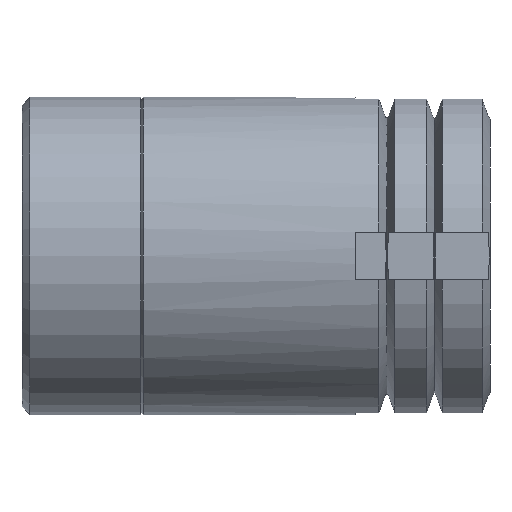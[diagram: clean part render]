
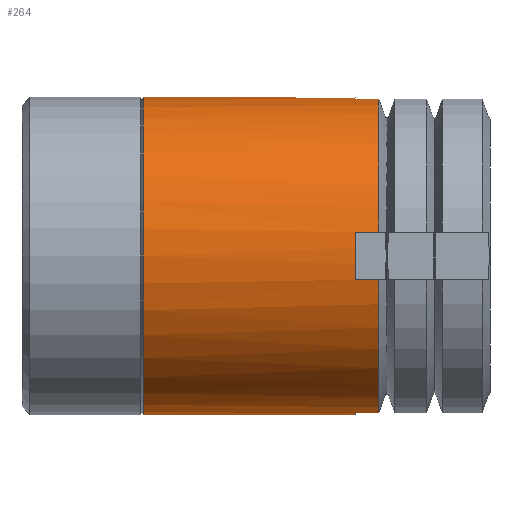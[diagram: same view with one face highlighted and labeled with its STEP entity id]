
A CAD part, front view. The second image highlights one B-rep face of the part: STEP entity #264.
In plain terms, the highlighted cylindrical face has radius 20 mm (diameter 40 mm), a full revolution.
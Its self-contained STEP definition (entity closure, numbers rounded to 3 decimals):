
#264 = ADVANCED_FACE( '', ( #402, #403 ), #404, .T. );
#402 = FACE_OUTER_BOUND( '', #640, .T. );
#403 = FACE_OUTER_BOUND( '', #641, .T. );
#404 = CYLINDRICAL_SURFACE( '', #642, 20. );
#640 = EDGE_LOOP( '', ( #922 ) );
#641 = EDGE_LOOP( '', ( #923, #924, #925, #926, #927, #928, #929, #930, #931, #932, #933, #934, #935, #936, #937, #938 ) );
#642 = AXIS2_PLACEMENT_3D( '', #939, #940, #941 );
#922 = ORIENTED_EDGE( '', *, *, #1500, .F. );
#923 = ORIENTED_EDGE( '', *, *, #1501, .F. );
#924 = ORIENTED_EDGE( '', *, *, #1502, .T. );
#925 = ORIENTED_EDGE( '', *, *, #1503, .T. );
#926 = ORIENTED_EDGE( '', *, *, #1504, .F. );
#927 = ORIENTED_EDGE( '', *, *, #1505, .F. );
#928 = ORIENTED_EDGE( '', *, *, #1506, .T. );
#929 = ORIENTED_EDGE( '', *, *, #1507, .T. );
#930 = ORIENTED_EDGE( '', *, *, #1508, .F. );
#931 = ORIENTED_EDGE( '', *, *, #1509, .F. );
#932 = ORIENTED_EDGE( '', *, *, #1486, .T. );
#933 = ORIENTED_EDGE( '', *, *, #1510, .T. );
#934 = ORIENTED_EDGE( '', *, *, #1511, .F. );
#935 = ORIENTED_EDGE( '', *, *, #1512, .F. );
#936 = ORIENTED_EDGE( '', *, *, #1513, .T. );
#937 = ORIENTED_EDGE( '', *, *, #1514, .T. );
#938 = ORIENTED_EDGE( '', *, *, #1515, .F. );
#939 = CARTESIAN_POINT( '', ( 0., 5.577, 0. ) );
#940 = DIRECTION( '', ( 0., 1., 0. ) );
#941 = DIRECTION( '', ( 0., 0., -1. ) );
#1486 = EDGE_CURVE( '', #1685, #1683, #1686, .T. );
#1500 = EDGE_CURVE( '', #1712, #1712, #1713, .T. );
#1501 = EDGE_CURVE( '', #1714, #1715, #1716, .T. );
#1502 = EDGE_CURVE( '', #1714, #1717, #1718, .T. );
#1503 = EDGE_CURVE( '', #1717, #1719, #1720, .T. );
#1504 = EDGE_CURVE( '', #1721, #1719, #1722, .T. );
#1505 = EDGE_CURVE( '', #1723, #1721, #1724, .T. );
#1506 = EDGE_CURVE( '', #1723, #1725, #1726, .T. );
#1507 = EDGE_CURVE( '', #1725, #1727, #1728, .T. );
#1508 = EDGE_CURVE( '', #1729, #1727, #1730, .T. );
#1509 = EDGE_CURVE( '', #1685, #1729, #1731, .T. );
#1510 = EDGE_CURVE( '', #1683, #1732, #1733, .T. );
#1511 = EDGE_CURVE( '', #1734, #1732, #1735, .T. );
#1512 = EDGE_CURVE( '', #1736, #1734, #1737, .T. );
#1513 = EDGE_CURVE( '', #1736, #1738, #1739, .T. );
#1514 = EDGE_CURVE( '', #1738, #1740, #1741, .T. );
#1515 = EDGE_CURVE( '', #1715, #1740, #1742, .T. );
#1683 = VERTEX_POINT( '', #2011 );
#1685 = VERTEX_POINT( '', #2019 );
#1686 = LINE( '', #2020, #2021 );
#1712 = VERTEX_POINT( '', #2049 );
#1713 = CIRCLE( '', #2050, 20. );
#1714 = VERTEX_POINT( '', #2051 );
#1715 = VERTEX_POINT( '', #2052 );
#1716 = CIRCLE( '', #2053, 20. );
#1717 = VERTEX_POINT( '', #2054 );
#1718 = LINE( '', #2055, #2056 );
#1719 = VERTEX_POINT( '', #2057 );
#1720 = CIRCLE( '', #2058, 20. );
#1721 = VERTEX_POINT( '', #2059 );
#1722 = LINE( '', #2060, #2061 );
#1723 = VERTEX_POINT( '', #2062 );
#1724 = CIRCLE( '', #2063, 20. );
#1725 = VERTEX_POINT( '', #2064 );
#1726 = LINE( '', #2065, #2066 );
#1727 = VERTEX_POINT( '', #2067 );
#1728 = CIRCLE( '', #2068, 20. );
#1729 = VERTEX_POINT( '', #2069 );
#1730 = LINE( '', #2070, #2071 );
#1731 = CIRCLE( '', #2072, 20. );
#1732 = VERTEX_POINT( '', #2073 );
#1733 = CIRCLE( '', #2074, 20. );
#1734 = VERTEX_POINT( '', #2075 );
#1735 = LINE( '', #2076, #2077 );
#1736 = VERTEX_POINT( '', #2078 );
#1737 = CIRCLE( '', #2079, 20. );
#1738 = VERTEX_POINT( '', #2080 );
#1739 = LINE( '', #2081, #2082 );
#1740 = VERTEX_POINT( '', #2083 );
#1741 = CIRCLE( '', #2084, 20. );
#1742 = LINE( '', #2085, #2086 );
#2011 = CARTESIAN_POINT( '', ( -19.774, 45.001, -3. ) );
#2019 = CARTESIAN_POINT( '', ( -19.774, 42.001, -3. ) );
#2020 = CARTESIAN_POINT( '', ( -19.774, 42.001, -3. ) );
#2021 = VECTOR( '', #2687, 1000. );
#2049 = CARTESIAN_POINT( '', ( 0., 15.265, -20. ) );
#2050 = AXIS2_PLACEMENT_3D( '', #2723, #2724, #2725 );
#2051 = CARTESIAN_POINT( '', ( 19.774, 42.001, 3. ) );
#2052 = CARTESIAN_POINT( '', ( 19.774, 42.001, -3. ) );
#2053 = AXIS2_PLACEMENT_3D( '', #2726, #2727, #2728 );
#2054 = CARTESIAN_POINT( '', ( 19.774, 45.001, 3. ) );
#2055 = CARTESIAN_POINT( '', ( 19.774, 42.001, 3. ) );
#2056 = VECTOR( '', #2729, 1000. );
#2057 = CARTESIAN_POINT( '', ( 3., 45.001, 19.774 ) );
#2058 = AXIS2_PLACEMENT_3D( '', #2730, #2731, #2732 );
#2059 = CARTESIAN_POINT( '', ( 3., 42.001, 19.774 ) );
#2060 = CARTESIAN_POINT( '', ( 3., 42.001, 19.774 ) );
#2061 = VECTOR( '', #2733, 1000. );
#2062 = CARTESIAN_POINT( '', ( -3., 42.001, 19.774 ) );
#2063 = AXIS2_PLACEMENT_3D( '', #2734, #2735, #2736 );
#2064 = CARTESIAN_POINT( '', ( -3., 45.001, 19.774 ) );
#2065 = CARTESIAN_POINT( '', ( -3., 42.001, 19.774 ) );
#2066 = VECTOR( '', #2737, 1000. );
#2067 = CARTESIAN_POINT( '', ( -19.774, 45.001, 3. ) );
#2068 = AXIS2_PLACEMENT_3D( '', #2738, #2739, #2740 );
#2069 = CARTESIAN_POINT( '', ( -19.774, 42.001, 3. ) );
#2070 = CARTESIAN_POINT( '', ( -19.774, 42.001, 3. ) );
#2071 = VECTOR( '', #2741, 1000. );
#2072 = AXIS2_PLACEMENT_3D( '', #2742, #2743, #2744 );
#2073 = CARTESIAN_POINT( '', ( -3., 45.001, -19.774 ) );
#2074 = AXIS2_PLACEMENT_3D( '', #2745, #2746, #2747 );
#2075 = CARTESIAN_POINT( '', ( -3., 42.001, -19.774 ) );
#2076 = CARTESIAN_POINT( '', ( -3., 42.001, -19.774 ) );
#2077 = VECTOR( '', #2748, 1000. );
#2078 = CARTESIAN_POINT( '', ( 3., 42.001, -19.774 ) );
#2079 = AXIS2_PLACEMENT_3D( '', #2749, #2750, #2751 );
#2080 = CARTESIAN_POINT( '', ( 3., 45.001, -19.774 ) );
#2081 = CARTESIAN_POINT( '', ( 3., 42.001, -19.774 ) );
#2082 = VECTOR( '', #2752, 1000. );
#2083 = CARTESIAN_POINT( '', ( 19.774, 45.001, -3. ) );
#2084 = AXIS2_PLACEMENT_3D( '', #2753, #2754, #2755 );
#2085 = CARTESIAN_POINT( '', ( 19.774, 42.001, -3. ) );
#2086 = VECTOR( '', #2756, 1000. );
#2687 = DIRECTION( '', ( 0., 1., 0. ) );
#2723 = CARTESIAN_POINT( '', ( 0., 15.265, 0. ) );
#2724 = DIRECTION( '', ( 0., -1., 0. ) );
#2725 = DIRECTION( '', ( 0., 0., -1. ) );
#2726 = CARTESIAN_POINT( '', ( 0., 42.001, 0. ) );
#2727 = DIRECTION( '', ( 0., 1., 0. ) );
#2728 = DIRECTION( '', ( 0., 0., 1. ) );
#2729 = DIRECTION( '', ( 0., 1., 0. ) );
#2730 = CARTESIAN_POINT( '', ( 0., 45.001, 0. ) );
#2731 = DIRECTION( '', ( 0., -1., 0. ) );
#2732 = DIRECTION( '', ( 0., 0., -1. ) );
#2733 = DIRECTION( '', ( 0., 1., 0. ) );
#2734 = CARTESIAN_POINT( '', ( 0., 42.001, 0. ) );
#2735 = DIRECTION( '', ( 0., 1., 0. ) );
#2736 = DIRECTION( '', ( 0., 0., 1. ) );
#2737 = DIRECTION( '', ( 0., 1., 0. ) );
#2738 = CARTESIAN_POINT( '', ( 0., 45.001, 0. ) );
#2739 = DIRECTION( '', ( 0., -1., 0. ) );
#2740 = DIRECTION( '', ( 0., 0., -1. ) );
#2741 = DIRECTION( '', ( 0., 1., 0. ) );
#2742 = CARTESIAN_POINT( '', ( 0., 42.001, 0. ) );
#2743 = DIRECTION( '', ( 0., 1., 0. ) );
#2744 = DIRECTION( '', ( 0., 0., 1. ) );
#2745 = CARTESIAN_POINT( '', ( 0., 45.001, 0. ) );
#2746 = DIRECTION( '', ( 0., -1., 0. ) );
#2747 = DIRECTION( '', ( 0., 0., -1. ) );
#2748 = DIRECTION( '', ( 0., 1., 0. ) );
#2749 = CARTESIAN_POINT( '', ( 0., 42.001, 0. ) );
#2750 = DIRECTION( '', ( 0., 1., 0. ) );
#2751 = DIRECTION( '', ( 0., 0., 1. ) );
#2752 = DIRECTION( '', ( 0., 1., 0. ) );
#2753 = CARTESIAN_POINT( '', ( 0., 45.001, 0. ) );
#2754 = DIRECTION( '', ( 0., -1., 0. ) );
#2755 = DIRECTION( '', ( 0., 0., -1. ) );
#2756 = DIRECTION( '', ( 0., 1., 0. ) );
